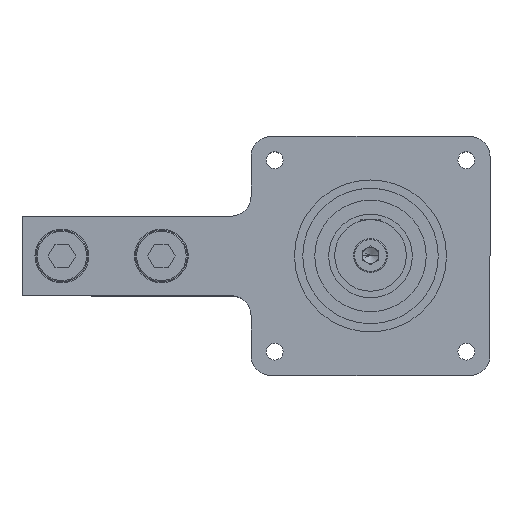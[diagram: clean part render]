
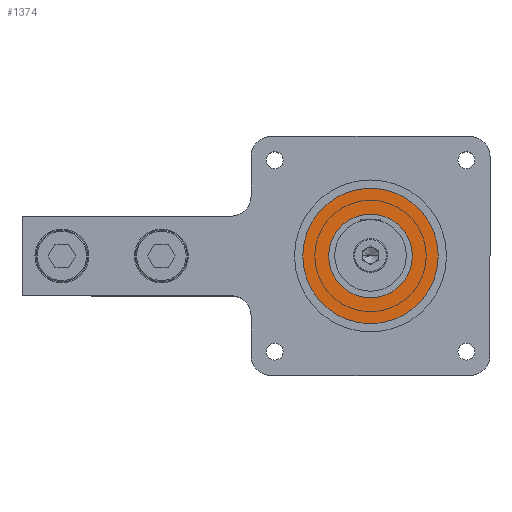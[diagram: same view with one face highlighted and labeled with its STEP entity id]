
A CAD part, top view. The second image highlights one B-rep face of the part: STEP entity #1374.
In plain terms, the highlighted planar face has unit normal (0, 0, 1).
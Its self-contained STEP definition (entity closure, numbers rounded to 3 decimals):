
#11 = DIRECTION ( 'NONE',  ( 0., 0., -1. ) ) ;
#589 = CARTESIAN_POINT ( 'NONE',  ( -10.5, 0., 5.5 ) ) ;
#611 = CARTESIAN_POINT ( 'NONE',  ( -17., 0., 5.5 ) ) ;
#649 = VERTEX_POINT ( 'NONE', #6069 ) ;
#1001 = CIRCLE ( 'NONE', #5849, 17. ) ;
#1374 = ADVANCED_FACE ( 'NONE', ( #11273, #8318 ), #6718, .F. ) ;
#1665 = CARTESIAN_POINT ( 'NONE',  ( 0., 0., 5.5 ) ) ;
#1822 = CARTESIAN_POINT ( 'NONE',  ( 17., 0., 5.5 ) ) ;
#1856 = CARTESIAN_POINT ( 'NONE',  ( 0., 0., 5.5 ) ) ;
#2082 = CARTESIAN_POINT ( 'NONE',  ( -17., 0., 5.5 ) ) ;
#2196 = EDGE_CURVE ( 'NONE', #649, #7337, #10741, .T. ) ;
#2291 = EDGE_LOOP ( 'NONE', ( #2630, #6307 ) ) ;
#2535 = CARTESIAN_POINT ( 'NONE',  ( 0., 0., 5.5 ) ) ;
#2630 = ORIENTED_EDGE ( 'NONE', *, *, #5878, .T. ) ;
#4268 = VERTEX_POINT ( 'NONE', #611 ) ;
#4469 = AXIS2_PLACEMENT_3D ( 'NONE', #2082, #11, #10059 ) ;
#4905 = DIRECTION ( 'NONE',  ( 0., 0., 1. ) ) ;
#5630 = AXIS2_PLACEMENT_3D ( 'NONE', #2535, #9288, #10367 ) ;
#5641 = CARTESIAN_POINT ( 'NONE',  ( 0., 0., 5.5 ) ) ;
#5849 = AXIS2_PLACEMENT_3D ( 'NONE', #1856, #7518, #13044 ) ;
#5878 = EDGE_CURVE ( 'NONE', #12537, #4268, #1001, .T. ) ;
#6027 = EDGE_LOOP ( 'NONE', ( #6535, #12355 ) ) ;
#6069 = CARTESIAN_POINT ( 'NONE',  ( 10.5, 0., 5.5 ) ) ;
#6307 = ORIENTED_EDGE ( 'NONE', *, *, #11436, .T. ) ;
#6373 = CIRCLE ( 'NONE', #5630, 17. ) ;
#6535 = ORIENTED_EDGE ( 'NONE', *, *, #2196, .F. ) ;
#6613 = CIRCLE ( 'NONE', #6842, 10.5 ) ;
#6718 = PLANE ( 'NONE',  #4469 ) ;
#6734 = DIRECTION ( 'NONE',  ( 0., 0., 1. ) ) ;
#6842 = AXIS2_PLACEMENT_3D ( 'NONE', #5641, #6734, #7879 ) ;
#7337 = VERTEX_POINT ( 'NONE', #589 ) ;
#7518 = DIRECTION ( 'NONE',  ( 0., 0., 1. ) ) ;
#7879 = DIRECTION ( 'NONE',  ( 1., 0., 0. ) ) ;
#8318 = FACE_OUTER_BOUND ( 'NONE', #2291, .T. ) ;
#9288 = DIRECTION ( 'NONE',  ( 0., 0., 1. ) ) ;
#10059 = DIRECTION ( 'NONE',  ( -1., 0., 0. ) ) ;
#10367 = DIRECTION ( 'NONE',  ( 1., 0., 0. ) ) ;
#10741 = CIRCLE ( 'NONE', #13361, 10.5 ) ;
#11273 = FACE_BOUND ( 'NONE', #6027, .T. ) ;
#11436 = EDGE_CURVE ( 'NONE', #4268, #12537, #6373, .T. ) ;
#11681 = DIRECTION ( 'NONE',  ( 1., 0., 0. ) ) ;
#12355 = ORIENTED_EDGE ( 'NONE', *, *, #14295, .F. ) ;
#12537 = VERTEX_POINT ( 'NONE', #1822 ) ;
#13044 = DIRECTION ( 'NONE',  ( 1., 0., 0. ) ) ;
#13361 = AXIS2_PLACEMENT_3D ( 'NONE', #1665, #4905, #11681 ) ;
#14295 = EDGE_CURVE ( 'NONE', #7337, #649, #6613, .T. ) ;
